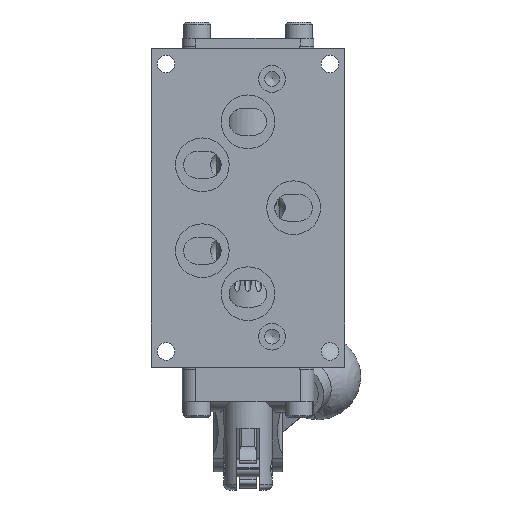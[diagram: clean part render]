
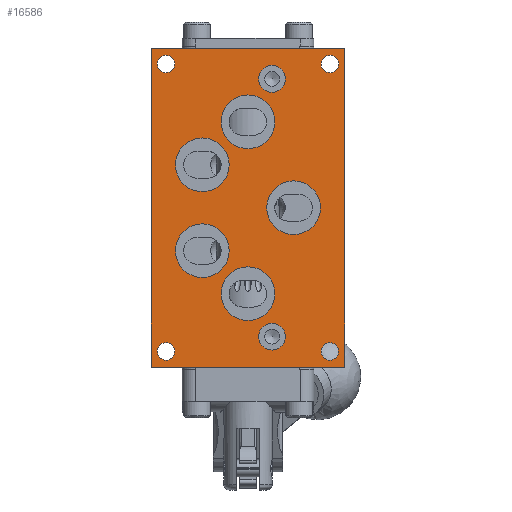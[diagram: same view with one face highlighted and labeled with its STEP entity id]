
A CAD part, front view. The second image highlights one B-rep face of the part: STEP entity #16586.
In plain terms, the highlighted planar face has unit normal (0, -1, 0).
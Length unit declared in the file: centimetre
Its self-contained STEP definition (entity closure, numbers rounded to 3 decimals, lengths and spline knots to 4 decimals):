
#1053=FACE_BOUND('',#3208,.T.);
#1054=FACE_BOUND('',#3209,.T.);
#1055=FACE_BOUND('',#3210,.T.);
#1056=FACE_BOUND('',#3211,.T.);
#1057=FACE_BOUND('',#3212,.T.);
#1058=FACE_BOUND('',#3213,.T.);
#1059=FACE_BOUND('',#3214,.T.);
#1060=FACE_BOUND('',#3215,.T.);
#1061=FACE_BOUND('',#3216,.T.);
#1062=FACE_BOUND('',#3217,.T.);
#1063=FACE_BOUND('',#3218,.T.);
#1287=CIRCLE('',#17710,0.3962);
#1291=CIRCLE('',#17718,0.3962);
#1293=CIRCLE('',#17723,0.7938);
#1295=CIRCLE('',#17727,0.7938);
#1297=CIRCLE('',#17731,0.7938);
#1299=CIRCLE('',#17735,0.7938);
#1301=CIRCLE('',#17739,0.7938);
#1304=CIRCLE('',#17744,0.258);
#1307=CIRCLE('',#17749,0.258);
#1310=CIRCLE('',#17754,0.258);
#1313=CIRCLE('',#17759,0.258);
#2178=FACE_OUTER_BOUND('',#3207,.T.);
#3207=EDGE_LOOP('',(#10889,#10890,#10891,#10892));
#3208=EDGE_LOOP('',(#10893));
#3209=EDGE_LOOP('',(#10894));
#3210=EDGE_LOOP('',(#10895));
#3211=EDGE_LOOP('',(#10896));
#3212=EDGE_LOOP('',(#10897));
#3213=EDGE_LOOP('',(#10898));
#3214=EDGE_LOOP('',(#10899));
#3215=EDGE_LOOP('',(#10900));
#3216=EDGE_LOOP('',(#10901));
#3217=EDGE_LOOP('',(#10902));
#3218=EDGE_LOOP('',(#10903));
#4208=LINE('',#24225,#5319);
#4224=LINE('',#24280,#5335);
#4349=LINE('',#25083,#5460);
#4350=LINE('',#25087,#5461);
#5319=VECTOR('',#19381,1.);
#5335=VECTOR('',#19423,1.);
#5460=VECTOR('',#20032,1.);
#5461=VECTOR('',#20039,1.);
#6429=VERTEX_POINT('',#24221);
#6431=VERTEX_POINT('',#24224);
#6455=VERTEX_POINT('',#24276);
#6457=VERTEX_POINT('',#24279);
#6600=VERTEX_POINT('',#24964);
#6605=VERTEX_POINT('',#24980);
#6607=VERTEX_POINT('',#24989);
#6609=VERTEX_POINT('',#24996);
#6611=VERTEX_POINT('',#25003);
#6613=VERTEX_POINT('',#25010);
#6615=VERTEX_POINT('',#25017);
#6619=VERTEX_POINT('',#25029);
#6623=VERTEX_POINT('',#25041);
#6627=VERTEX_POINT('',#25053);
#6631=VERTEX_POINT('',#25065);
#7962=EDGE_CURVE('',#6431,#6429,#4208,.T.);
#7988=EDGE_CURVE('',#6457,#6455,#4224,.T.);
#8201=EDGE_CURVE('',#6600,#6600,#1287,.T.);
#8208=EDGE_CURVE('',#6605,#6605,#1291,.T.);
#8212=EDGE_CURVE('',#6607,#6607,#1293,.T.);
#8215=EDGE_CURVE('',#6609,#6609,#1295,.T.);
#8218=EDGE_CURVE('',#6611,#6611,#1297,.T.);
#8221=EDGE_CURVE('',#6613,#6613,#1299,.T.);
#8224=EDGE_CURVE('',#6615,#6615,#1301,.T.);
#8231=EDGE_CURVE('',#6619,#6619,#1304,.T.);
#8237=EDGE_CURVE('',#6623,#6623,#1307,.T.);
#8243=EDGE_CURVE('',#6627,#6627,#1310,.T.);
#8249=EDGE_CURVE('',#6631,#6631,#1313,.T.);
#8258=EDGE_CURVE('',#6429,#6457,#4349,.T.);
#8259=EDGE_CURVE('',#6455,#6431,#4350,.T.);
#10889=ORIENTED_EDGE('',*,*,#7962,.T.);
#10890=ORIENTED_EDGE('',*,*,#8258,.T.);
#10891=ORIENTED_EDGE('',*,*,#7988,.T.);
#10892=ORIENTED_EDGE('',*,*,#8259,.T.);
#10893=ORIENTED_EDGE('',*,*,#8201,.T.);
#10894=ORIENTED_EDGE('',*,*,#8208,.T.);
#10895=ORIENTED_EDGE('',*,*,#8212,.T.);
#10896=ORIENTED_EDGE('',*,*,#8215,.T.);
#10897=ORIENTED_EDGE('',*,*,#8218,.T.);
#10898=ORIENTED_EDGE('',*,*,#8221,.T.);
#10899=ORIENTED_EDGE('',*,*,#8224,.T.);
#10900=ORIENTED_EDGE('',*,*,#8231,.T.);
#10901=ORIENTED_EDGE('',*,*,#8237,.T.);
#10902=ORIENTED_EDGE('',*,*,#8243,.T.);
#10903=ORIENTED_EDGE('',*,*,#8249,.T.);
#15151=PLANE('',#17770);
#16586=ADVANCED_FACE('',(#2178,#1053,#1054,#1055,#1056,#1057,#1058,#1059,
#1060,#1061,#1062,#1063),#15151,.T.);
#17710=AXIS2_PLACEMENT_3D('',#24965,#19888,#19889);
#17718=AXIS2_PLACEMENT_3D('',#24981,#19907,#19908);
#17723=AXIS2_PLACEMENT_3D('',#24990,#19919,#19920);
#17727=AXIS2_PLACEMENT_3D('',#24997,#19928,#19929);
#17731=AXIS2_PLACEMENT_3D('',#25004,#19937,#19938);
#17735=AXIS2_PLACEMENT_3D('',#25011,#19946,#19947);
#17739=AXIS2_PLACEMENT_3D('',#25018,#19955,#19956);
#17744=AXIS2_PLACEMENT_3D('',#25031,#19969,#19970);
#17749=AXIS2_PLACEMENT_3D('',#25043,#19982,#19983);
#17754=AXIS2_PLACEMENT_3D('',#25055,#19995,#19996);
#17759=AXIS2_PLACEMENT_3D('',#25067,#20008,#20009);
#17770=AXIS2_PLACEMENT_3D('',#25088,#20040,#20041);
#19381=DIRECTION('',(-1.,0.,0.));
#19423=DIRECTION('',(1.,0.,0.));
#19888=DIRECTION('center_axis',(0.,1.,0.));
#19889=DIRECTION('ref_axis',(1.,0.,0.));
#19907=DIRECTION('center_axis',(0.,1.,0.));
#19908=DIRECTION('ref_axis',(1.,0.,0.));
#19919=DIRECTION('center_axis',(0.,1.,0.));
#19920=DIRECTION('ref_axis',(1.,0.,0.));
#19928=DIRECTION('center_axis',(0.,1.,0.));
#19929=DIRECTION('ref_axis',(1.,0.,0.));
#19937=DIRECTION('center_axis',(0.,1.,0.));
#19938=DIRECTION('ref_axis',(1.,0.,0.));
#19946=DIRECTION('center_axis',(0.,1.,0.));
#19947=DIRECTION('ref_axis',(1.,0.,0.));
#19955=DIRECTION('center_axis',(0.,1.,0.));
#19956=DIRECTION('ref_axis',(1.,0.,0.));
#19969=DIRECTION('center_axis',(0.,1.,0.));
#19970=DIRECTION('ref_axis',(1.,0.,0.));
#19982=DIRECTION('center_axis',(0.,1.,0.));
#19983=DIRECTION('ref_axis',(1.,0.,0.));
#19995=DIRECTION('center_axis',(0.,1.,0.));
#19996=DIRECTION('ref_axis',(1.,0.,0.));
#20008=DIRECTION('center_axis',(0.,1.,0.));
#20009=DIRECTION('ref_axis',(1.,0.,0.));
#20032=DIRECTION('',(0.,0.,-1.));
#20039=DIRECTION('',(0.,0.,1.));
#20040=DIRECTION('center_axis',(0.,-1.,0.));
#20041=DIRECTION('ref_axis',(0.,0.,-1.));
#24221=CARTESIAN_POINT('',(-2.8575,-1.6358,4.7104));
#24224=CARTESIAN_POINT('',(2.8575,-1.6358,4.7104));
#24225=CARTESIAN_POINT('',(-2.8575,-1.6358,4.7104));
#24276=CARTESIAN_POINT('',(2.8575,-1.6358,-4.7104));
#24279=CARTESIAN_POINT('',(-2.8575,-1.6358,-4.7104));
#24280=CARTESIAN_POINT('',(-2.8575,-1.6358,-4.7104));
#24964=CARTESIAN_POINT('',(0.3175,-1.6358,-3.81));
#24965=CARTESIAN_POINT('Origin',(0.7137,-1.6358,-3.81));
#24980=CARTESIAN_POINT('',(0.3175,-1.6358,3.81));
#24981=CARTESIAN_POINT('Origin',(0.7137,-1.6358,3.81));
#24989=CARTESIAN_POINT('',(0.555,-1.6358,0.));
#24990=CARTESIAN_POINT('Origin',(1.3487,-1.6358,0.));
#24996=CARTESIAN_POINT('',(-0.7938,-1.6358,-2.54));
#24997=CARTESIAN_POINT('Origin',(0.,-1.6358,-2.54));
#25003=CARTESIAN_POINT('',(-0.7938,-1.6358,2.54));
#25004=CARTESIAN_POINT('Origin',(0.,-1.6358,2.54));
#25010=CARTESIAN_POINT('',(-2.1425,-1.6358,-1.27));
#25011=CARTESIAN_POINT('Origin',(-1.3487,-1.6358,-1.27));
#25017=CARTESIAN_POINT('',(-2.1425,-1.6358,1.27));
#25018=CARTESIAN_POINT('Origin',(-1.3487,-1.6358,1.27));
#25029=CARTESIAN_POINT('',(-2.6786,-1.6358,4.2469));
#25031=CARTESIAN_POINT('Origin',(-2.4206,-1.6358,4.2469));
#25041=CARTESIAN_POINT('',(2.1627,-1.6358,4.2469));
#25043=CARTESIAN_POINT('Origin',(2.4206,-1.6358,4.2469));
#25053=CARTESIAN_POINT('',(2.1627,-1.6358,-4.2469));
#25055=CARTESIAN_POINT('Origin',(2.4206,-1.6358,-4.2469));
#25065=CARTESIAN_POINT('',(-2.6786,-1.6358,-4.2469));
#25067=CARTESIAN_POINT('Origin',(-2.4206,-1.6358,-4.2469));
#25083=CARTESIAN_POINT('',(-2.8575,-1.6358,0.));
#25087=CARTESIAN_POINT('',(2.8575,-1.6358,0.));
#25088=CARTESIAN_POINT('Origin',(2.8575,-1.6358,0.));
